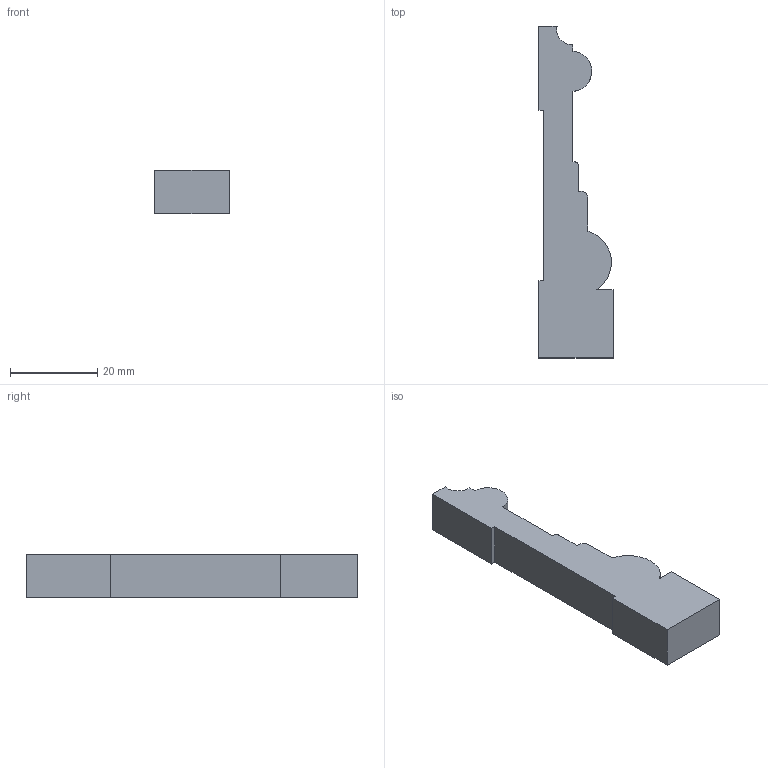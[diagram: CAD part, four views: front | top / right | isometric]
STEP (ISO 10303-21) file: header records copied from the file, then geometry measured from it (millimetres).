
FILE_DESCRIPTION (( 'STEP AP203' ), '1' );
FILE_NAME ('AB109FJ.STEP', '2024-02-16T18:14:07', ( '' ), ( '' ), 'SwSTEP 2.0', 'SolidWorks 2020', '' );
FILE_SCHEMA (( 'CONFIG_CONTROL_DESIGN' ));
Length unit declared in the file: millimetre
Products named in the file (1): AB109FJ
Bounding box: 17.02 x 76.25 x 10 mm (x, y, z)
Volume: 8588.7 mm3; surface area: 3644.3 mm2
Topology: 1 solids, 1 shells, 22 faces, 60 edges, 40 vertices
Faces by surface type: plane 17, cylinder 5
Entity records: 771 total; most frequent: CARTESIAN_POINT 123, ORIENTED_EDGE 120, DIRECTION 116, EDGE_CURVE 60, VECTOR 50, LINE 50, VERTEX_POINT 40, AXIS2_PLACEMENT_3D 33
